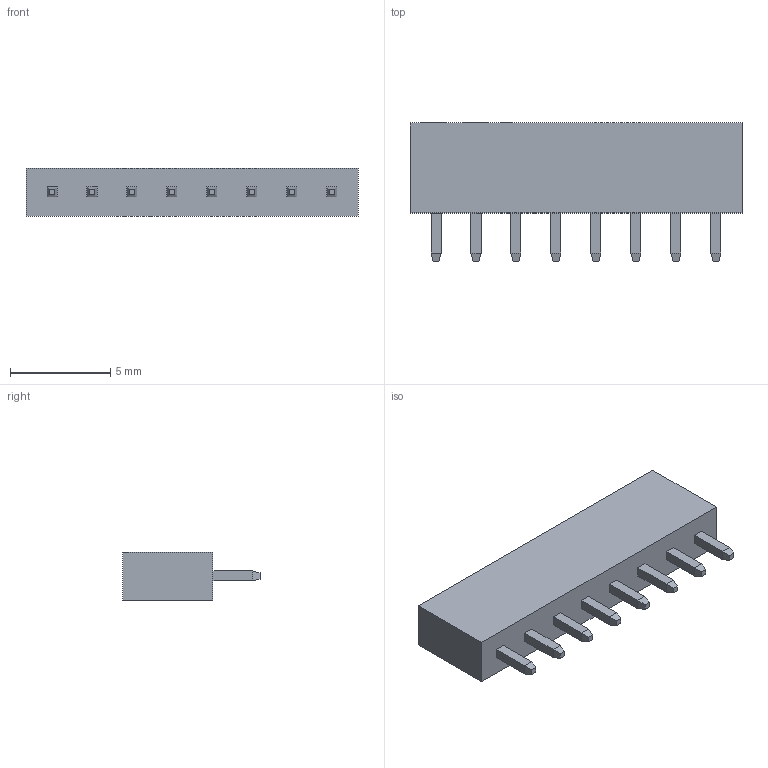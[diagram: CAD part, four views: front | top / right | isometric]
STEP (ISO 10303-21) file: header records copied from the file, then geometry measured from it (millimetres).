
FILE_DESCRIPTION (( 'STEP AP214' ), '1' );
FILE_NAME ('PBS2-8.STEP', '2011-05-17T10:45:05', ( 'vpeshkov' ), ( 'licard' ), 'SwSTEP 2.0', 'SolidWorks 2009', '' );
FILE_SCHEMA (( 'AUTOMOTIVE_DESIGN' ));
Length unit declared in the file: millimetre
Products named in the file (1): PBS2-8
Bounding box: 16.6 x 6.9 x 2.4 mm (x, y, z)
Volume: 161.9 mm3; surface area: 385.6 mm2
Topology: 1 solids, 1 shells, 150 faces, 332 edges, 200 vertices
Faces by surface type: plane 150
Entity records: 4790 total; most frequent: CARTESIAN_POINT 683, ORIENTED_EDGE 664, DIRECTION 634, EDGE_CURVE 332, VECTOR 332, LINE 332, VERTEX_POINT 200, EDGE_LOOP 166
